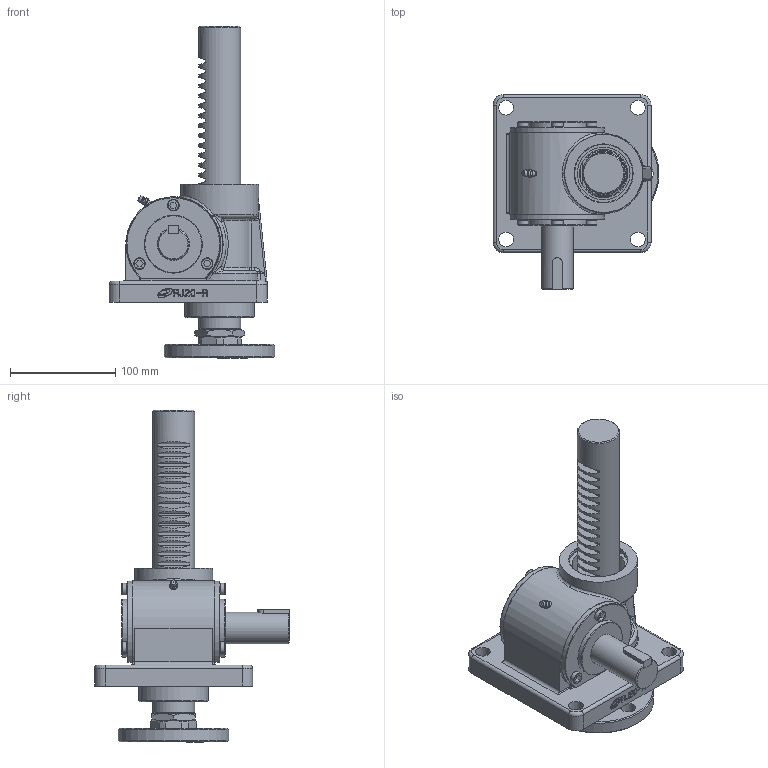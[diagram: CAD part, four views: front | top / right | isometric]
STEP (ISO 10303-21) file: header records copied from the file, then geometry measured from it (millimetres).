
FILE_DESCRIPTION(('STEP AP203'),'1');
FILE_NAME('RJ20UR-150ST.stp','2022-07-05T07:16:52',(' '),(' '),'Spatial InterOp 3D',' ',' ');
FILE_SCHEMA(('CONFIG_CONTROL_DESIGN'));
Length unit declared in the file: millimetre
Products named in the file (26): RJ20UR-150ST; Rack Gear(RJ20); Flange-Part; Flange; Joint; Nut; Body-Part; Nipple; Pinion Gear; Bolt; Shaft; Key; Bearing Cover Open(RJ20); Bearing Cover Close(RJ20); Gear Box(RJ20); RJ05-4SCJ-610X600-100ST_CAP; LABEL-B.1; ___; 파트18; __ 
Assembly tree (25 placements, depth 5):
  RJ20UR-150ST
    Rack Gear(RJ20)
    Flange-Part
      Flange
      Joint
      Nut
    Body-Part
      Nipple
      Pinion Gear
      Bolt
      Bolt
      Bolt
      Bolt
      Bolt
      Bolt
      Shaft
        Key
        Shaft
      Bearing Cover Open(RJ20)
      Bearing Cover Close(RJ20)
      Gear Box(RJ20)
    __ 
      ___
        RJ05-4SCJ-610X600-100ST_CAP
          LABEL-B.1
        파트18
Bounding box: 157.5 x 185 x 315 mm (x, y, z)
Volume: 1292483.2 mm3; surface area: 288902.9 mm2
Topology: 24 solids, 24 shells, 2416 faces, 6713 edges, 4395 vertices
Faces by surface type: plane 1816, cylinder 293, torus 108, cone 96, extrusion 52, bspline 36, sphere 8, revolution 7
Full cylindrical faces by diameter (mm): 3.113 x1, 6 x8, 6.6 x1, 8 x6, 9 x6, 11 x6, 14 x8, 28 x1, 30 x3, 30.5 x1, 32 x1, 40 x1, 43 x2, 44 x3, 45 x1, 46 x2, 50 x2, 52 x2, 54 x1, 55 x4, 58 x1, 61.4 x2, 62 x1, 66 x1, 74 x1, 105 x1
Entity records: 82201 total; most frequent: CARTESIAN_POINT 20032, ORIENTED_EDGE 13000, DIRECTION 11768, EDGE_CURVE 6500, VECTOR 5289, LINE 5237, VERTEX_POINT 4325, AXIS2_PLACEMENT_3D 3236
